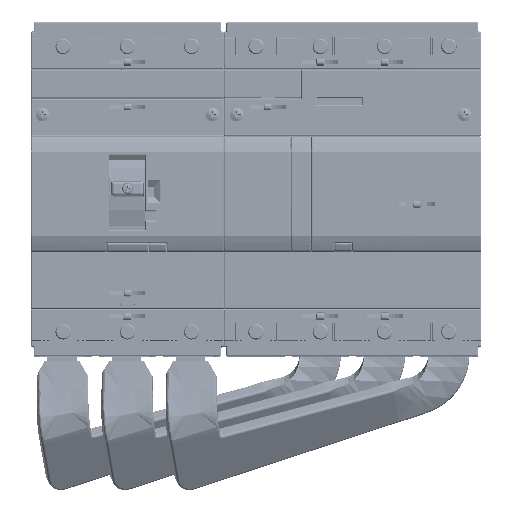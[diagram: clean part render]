
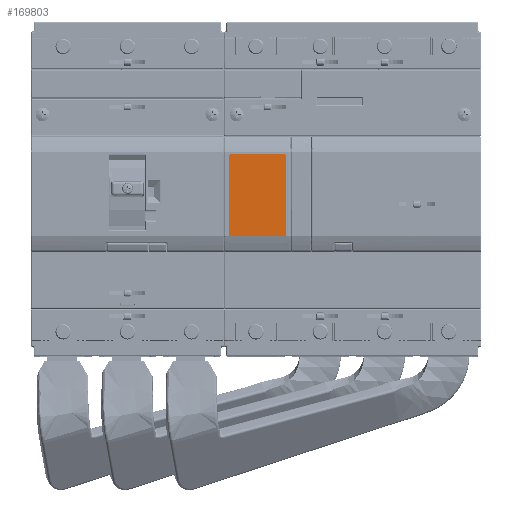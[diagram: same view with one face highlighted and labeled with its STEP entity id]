
A CAD part, top view. The second image highlights one B-rep face of the part: STEP entity #169803.
In plain terms, the highlighted planar face has unit normal (0, 0, 1).
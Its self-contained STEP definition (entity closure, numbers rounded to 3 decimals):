
#51535 = EDGE_CURVE ( 'NONE', #219691, #219627, #422670, .T. ) ;
#51554 = EDGE_CURVE ( 'NONE', #219703, #219709, #225302, .T. ) ;
#51563 = EDGE_CURVE ( 'NONE', #219691, #219703, #422792, .T. ) ;
#51573 = EDGE_CURVE ( 'NONE', #219706, #219627, #422823, .T. ) ;
#51581 = EDGE_CURVE ( 'NONE', #219719, #219706, #225308, .T. ) ;
#51587 = EDGE_CURVE ( 'NONE', #219709, #219719, #422907, .T. ) ;
#58684 = PLANE ( 'NONE',  #359280 ) ;
#58765 = FACE_OUTER_BOUND ( 'NONE', #483786, .T. ) ;
#58830 = CARTESIAN_POINT ( 'NONE',  ( -47.516, 44.638, 33.94 ) ) ;
#58835 = DIRECTION ( 'NONE',  ( 0., 0., 1. ) ) ;
#58837 = DIRECTION ( 'NONE',  ( 0., -1., 0. ) ) ;
#169803 = ADVANCED_FACE ( 'NONE', ( #58765 ), #58684, .T. ) ;
#219627 = VERTEX_POINT ( 'NONE', #349432 ) ;
#219691 = VERTEX_POINT ( 'NONE', #349553 ) ;
#219703 = VERTEX_POINT ( 'NONE', #349573 ) ;
#219706 = VERTEX_POINT ( 'NONE', #349579 ) ;
#219709 = VERTEX_POINT ( 'NONE', #349587 ) ;
#219719 = VERTEX_POINT ( 'NONE', #349606 ) ;
#225302 = B_SPLINE_CURVE_WITH_KNOTS ( 'NONE', 3,
 ( #422763, #422755, #422759, #422768, #422773, #422778 ),
 .UNSPECIFIED., .F., .F.,
 ( 4, 2, 4 ),
 ( 0., 0.5, 1. ),
 .UNSPECIFIED. ) ;
#225308 = B_SPLINE_CURVE_WITH_KNOTS ( 'NONE', 3,
 ( #422881, #422877, #422863, #422886, #422890, #422894 ),
 .UNSPECIFIED., .F., .F.,
 ( 4, 2, 4 ),
 ( 0., 0.5, 1. ),
 .UNSPECIFIED. ) ;
#320094 = ORIENTED_EDGE ( 'NONE', *, *, #51554, .F. ) ;
#320099 = ORIENTED_EDGE ( 'NONE', *, *, #51563, .F. ) ;
#320105 = ORIENTED_EDGE ( 'NONE', *, *, #51535, .T. ) ;
#320109 = ORIENTED_EDGE ( 'NONE', *, *, #51573, .F. ) ;
#320114 = ORIENTED_EDGE ( 'NONE', *, *, #51581, .F. ) ;
#320119 = ORIENTED_EDGE ( 'NONE', *, *, #51587, .F. ) ;
#349432 = CARTESIAN_POINT ( 'NONE',  ( 10.989, 12.828, 33.94 ) ) ;
#349553 = CARTESIAN_POINT ( 'NONE',  ( -11.011, 12.828, 33.94 ) ) ;
#349573 = CARTESIAN_POINT ( 'NONE',  ( -11.011, 44.138, 33.94 ) ) ;
#349579 = CARTESIAN_POINT ( 'NONE',  ( 10.989, 44.138, 33.94 ) ) ;
#349587 = CARTESIAN_POINT ( 'NONE',  ( -10.511, 44.638, 33.94 ) ) ;
#349606 = CARTESIAN_POINT ( 'NONE',  ( 10.489, 44.638, 33.94 ) ) ;
#359280 = AXIS2_PLACEMENT_3D ( 'NONE', #58830, #58835, #58837 ) ;
#420916 = VECTOR ( 'NONE', #422692, 1000. ) ;
#420951 = VECTOR ( 'NONE', #422815, 1000. ) ;
#420955 = VECTOR ( 'NONE', #422850, 1000. ) ;
#420973 = VECTOR ( 'NONE', #422934, 1000. ) ;
#422670 = LINE ( 'NONE', #422674, #420916 ) ;
#422674 = CARTESIAN_POINT ( 'NONE',  ( -47.516, 12.828, 33.94 ) ) ;
#422692 = DIRECTION ( 'NONE',  ( 1., 0., 0. ) ) ;
#422755 = CARTESIAN_POINT ( 'NONE',  ( -11.011, 44.269, 33.94 ) ) ;
#422759 = CARTESIAN_POINT ( 'NONE',  ( -10.957, 44.399, 33.94 ) ) ;
#422763 = CARTESIAN_POINT ( 'NONE',  ( -11.011, 44.138, 33.94 ) ) ;
#422768 = CARTESIAN_POINT ( 'NONE',  ( -10.772, 44.584, 33.94 ) ) ;
#422773 = CARTESIAN_POINT ( 'NONE',  ( -10.642, 44.638, 33.94 ) ) ;
#422778 = CARTESIAN_POINT ( 'NONE',  ( -10.511, 44.638, 33.94 ) ) ;
#422787 = CARTESIAN_POINT ( 'NONE',  ( -11.011, -32.362, 33.94 ) ) ;
#422792 = LINE ( 'NONE', #422787, #420951 ) ;
#422812 = CARTESIAN_POINT ( 'NONE',  ( 10.989, 29.138, 33.94 ) ) ;
#422815 = DIRECTION ( 'NONE',  ( 0., 1., 0. ) ) ;
#422823 = LINE ( 'NONE', #422812, #420955 ) ;
#422850 = DIRECTION ( 'NONE',  ( 0., -1., 0. ) ) ;
#422863 = CARTESIAN_POINT ( 'NONE',  ( 10.75, 44.584, 33.94 ) ) ;
#422877 = CARTESIAN_POINT ( 'NONE',  ( 10.62, 44.638, 33.94 ) ) ;
#422881 = CARTESIAN_POINT ( 'NONE',  ( 10.489, 44.638, 33.94 ) ) ;
#422886 = CARTESIAN_POINT ( 'NONE',  ( 10.935, 44.399, 33.94 ) ) ;
#422890 = CARTESIAN_POINT ( 'NONE',  ( 10.989, 44.269, 33.94 ) ) ;
#422894 = CARTESIAN_POINT ( 'NONE',  ( 10.989, 44.138, 33.94 ) ) ;
#422903 = CARTESIAN_POINT ( 'NONE',  ( -47.516, 44.638, 33.94 ) ) ;
#422907 = LINE ( 'NONE', #422903, #420973 ) ;
#422934 = DIRECTION ( 'NONE',  ( 1., 0., 0. ) ) ;
#483786 = EDGE_LOOP ( 'NONE', ( #320094, #320099, #320105, #320109, #320114, #320119 ) ) ;
